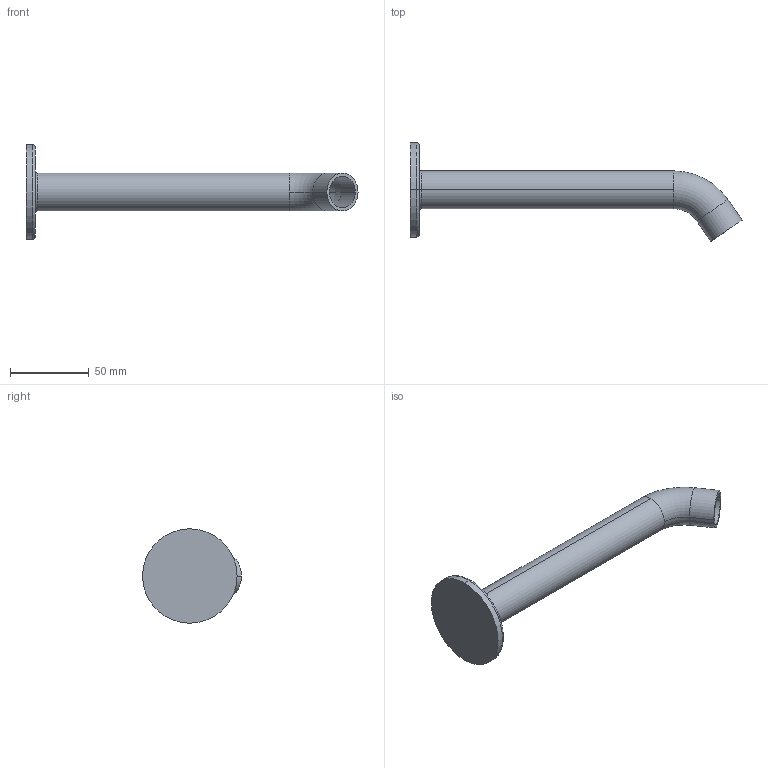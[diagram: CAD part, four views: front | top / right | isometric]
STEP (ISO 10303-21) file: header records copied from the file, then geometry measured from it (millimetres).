
FILE_DESCRIPTION (( 'STEP AP203' ), '1' );
FILE_NAME ('AZ 725.STEP', '2019-02-01T15:30:31', ( '' ), ( '' ), 'SwSTEP 2.0', 'SolidWorks 2019', '' );
FILE_SCHEMA (( 'CONFIG_CONTROL_DESIGN' ));
Length unit declared in the file: millimetre
Products named in the file (1): AZ 725
Bounding box: 210.89 x 62.8 x 60 mm (x, y, z)
Volume: 45320.4 mm3; surface area: 35089.1 mm2
Topology: 1 solids, 1 shells, 22 faces, 46 edges, 28 vertices
Faces by surface type: cylinder 10, torus 8, plane 4
Entity records: 679 total; most frequent: DIRECTION 128, CARTESIAN_POINT 97, ORIENTED_EDGE 92, AXIS2_PLACEMENT_3D 59, EDGE_CURVE 46, CIRCLE 36, VERTEX_POINT 28, EDGE_LOOP 24
